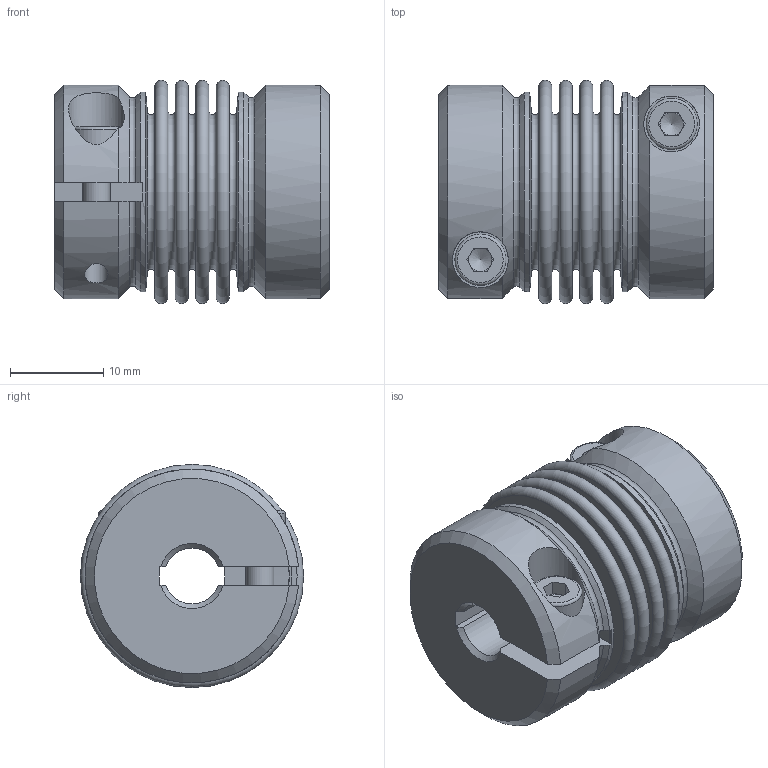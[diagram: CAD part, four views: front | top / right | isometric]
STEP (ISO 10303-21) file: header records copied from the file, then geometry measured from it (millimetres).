
FILE_DESCRIPTION( ( 'Unknown' ), '1' );
FILE_NAME( 'F:/JAKOB-STEP+IGES-Dateien/STEP-Dateien/KG-VA/KG-VA 4.stp', 'Unknown', ( 'Unknown' ), ( 'Unknown' ), 'PSStep 10.1', 'Unknown', ' ' );
FILE_SCHEMA( ( 'AUTOMOTIVE_DESIGN { 1 0 10303 214 1 1 1 1 }' ) );
Length unit declared in the file: millimetre
Products named in the file (1): 20716592
Bounding box: 29.56 x 24 x 24 mm (x, y, z)
Volume: 7229.7 mm3; surface area: 8775.1 mm2
Topology: 1 solids, 1 shells, 126 faces, 295 edges, 191 vertices
Faces by surface type: plane 64, torus 22, cone 20, cylinder 20
Full cylindrical faces by diameter (mm): 2.5 x2, 3 x2, 3.4 x2, 5.5 x2, 6 x2, 20.9 x2, 21.5 x2
Entity records: 4568 total; most frequent: CARTESIAN_POINT 835, DIRECTION 586, ORIENTED_EDGE 480, AXIS2_PLACEMENT_3D 245, EDGE_CURVE 240, EDGE_LOOP 192, VERTEX_POINT 178, FACE_OUTER_BOUND 160
